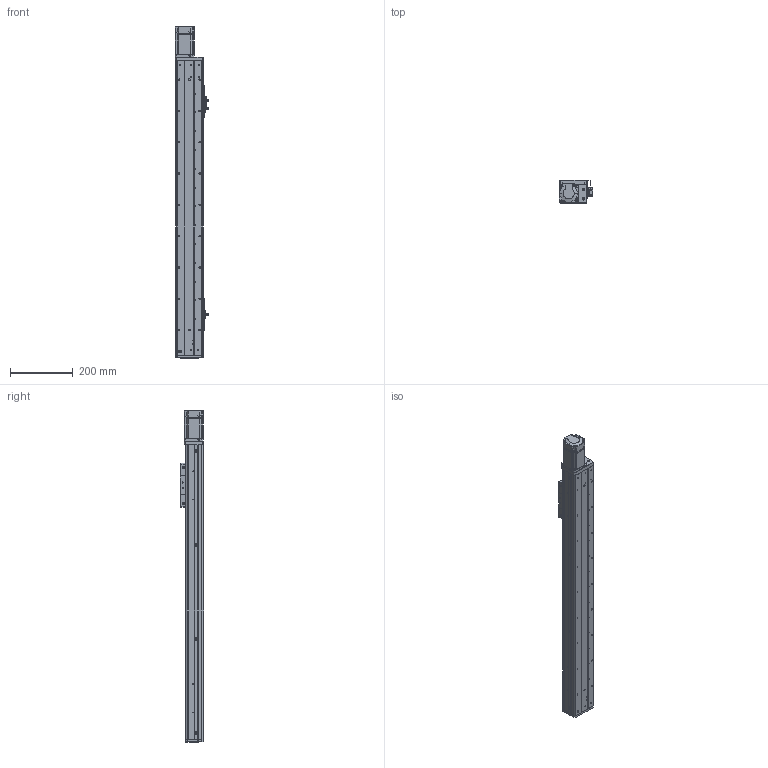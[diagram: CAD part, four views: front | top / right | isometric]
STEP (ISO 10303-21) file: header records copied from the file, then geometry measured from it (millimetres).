
FILE_DESCRIPTION (( 'STEP AP203' ), '1' );
FILE_NAME ('RY80F-L1610-300-MK.SLDASM_700.step', '2021-03-02T03:19:03', ( '盈信电脑' ), ( '东莞市道滘镇水果街19号' ), 'SwSTEP 2.0', 'SolidWorks 2012', '' );
FILE_SCHEMA (( 'CONFIG_CONTROL_DESIGN' ));
Length unit declared in the file: millimetre
Products named in the file (16): 覜茼ん672; RY80俋离覜茼え; RY80F-L1610-300-MK.SLDASM_700; 侂狟200W萇儂; 滅袉蝶18-24; 1; RY80F-詩湍揤踡輸; 672嫖萇羲壽假蚾釱; RY80F-綴裔啣(臏璃ㄘ; 蚥薯蝶紫輸; RY80F-滅鳥裔啣; RY80F-丝杆铝滑块(16丝杆）; RY80F-佪裝眻蟀ヶ裔啣(200W PCD70 M4); RY80F-300-祥凄詩湍-MK_700; RY80F-300丝杆直连型材盖板_700; RY80F-丝杆直连型材底座_700
Assembly tree (21 placements, depth 3):
  RY80F-L1610-300-MK.SLDASM_700
    RY80F-丝杆直连型材底座_700
    RY80F-300丝杆直连型材盖板_700  x2
    RY80F-丝杆铝滑块(16丝杆）
    RY80F-滅鳥裔啣
    RY80F-300-祥凄詩湍-MK_700
    RY80F-佪裝眻蟀ヶ裔啣(200W PCD70 M4)
    RY80F-詩湍揤踡輸  x2
    RY80F-綴裔啣(臏璃ㄘ
    672嫖萇羲壽假蚾釱  x2
    蚥薯蝶紫輸
    滅袉蝶18-24  x2
    侂狟200W萇儂
      1
    RY80俋离覜茼え
    覜茼ん672  x3
Bounding box: 107.2 x 75 x 1060 mm (x, y, z)
Volume: 2013767.1 mm3; surface area: 794213.5 mm2
Topology: 20 solids, 20 shells, 1725 faces, 4776 edges, 3116 vertices
Faces by surface type: plane 807, cylinder 791, cone 109, bspline 18
Entity records: 50008 total; most frequent: CARTESIAN_POINT 10913, ORIENTED_EDGE 7824, DIRECTION 7740, EDGE_CURVE 3912, AXIS2_PLACEMENT_3D 2719, VERTEX_POINT 2568, LINE 2302, VECTOR 2302
